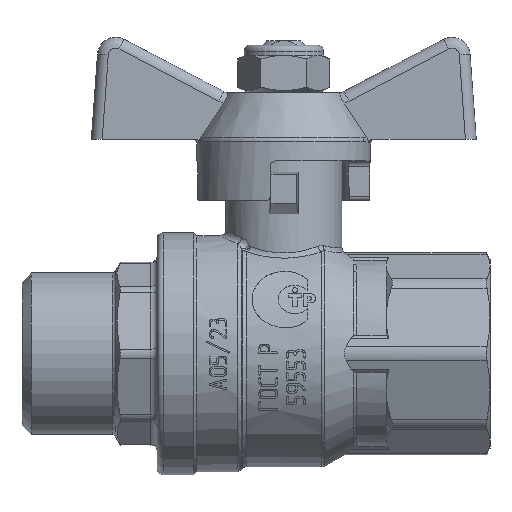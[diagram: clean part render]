
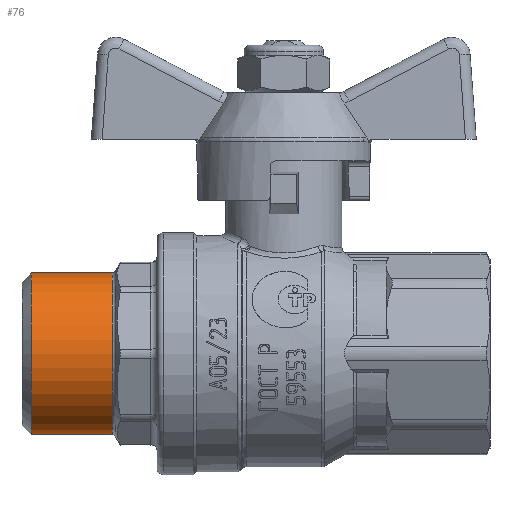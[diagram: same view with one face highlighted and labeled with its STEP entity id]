
A CAD part, left-side view. The second image highlights one B-rep face of the part: STEP entity #76.
In plain terms, the highlighted cylindrical face has radius 13.22 mm (diameter 26.441 mm), a full revolution.
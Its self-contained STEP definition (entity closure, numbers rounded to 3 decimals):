
#76=ADVANCED_FACE('',(#1465,#1467),#1469,.T.);
#1465=FACE_OUTER_BOUND('',#1466,.T.);
#1466=EDGE_LOOP('',(#9792));
#1467=FACE_OUTER_BOUND('',#1468,.T.);
#1468=EDGE_LOOP('',(#9793));
#1469=CYLINDRICAL_SURFACE('',#1470,13.221);
#1470=AXIS2_PLACEMENT_3D('',#1471,#1472,#1473);
#1471=CARTESIAN_POINT('',(0.,0.,0.));
#1472=DIRECTION('',(0.,1.,0.));
#1473=DIRECTION('',(-1.,0.,0.));
#9792=ORIENTED_EDGE('',*,*,#17809,.F.);
#9793=ORIENTED_EDGE('',*,*,#17834,.T.);
#17809=EDGE_CURVE('',#21014,#21014,#21015,.T.);
#17834=EDGE_CURVE('',#21056,#21056,#21057,.T.);
#21014=VERTEX_POINT('',#26537);
#21015=CIRCLE('',#26538,13.221);
#21056=VERTEX_POINT('',#27254);
#21057=CIRCLE('',#27255,13.221);
#26537=CARTESIAN_POINT('',(-13.221,23.6,0.));
#26538=AXIS2_PLACEMENT_3D('',#26539,#26540,#26541);
#26539=CARTESIAN_POINT('',(0.,23.6,0.));
#26540=DIRECTION('',(0.,1.,0.));
#26541=DIRECTION('',(-1.,0.,0.));
#27254=CARTESIAN_POINT('',(-13.221,10.289,0.));
#27255=AXIS2_PLACEMENT_3D('',#27256,#27257,#27258);
#27256=CARTESIAN_POINT('',(0.,10.289,0.));
#27257=DIRECTION('',(0.,1.,0.));
#27258=DIRECTION('',(-1.,0.,0.));
